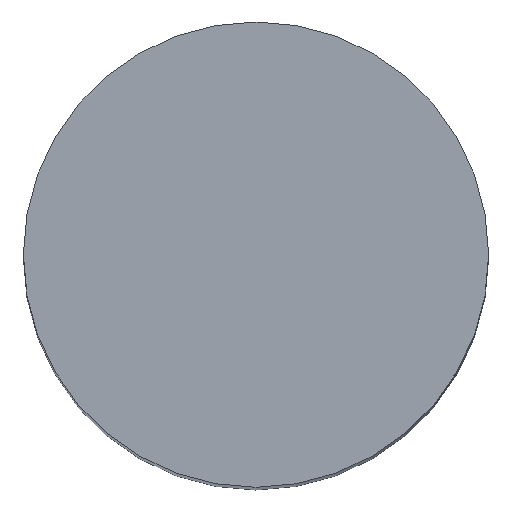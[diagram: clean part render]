
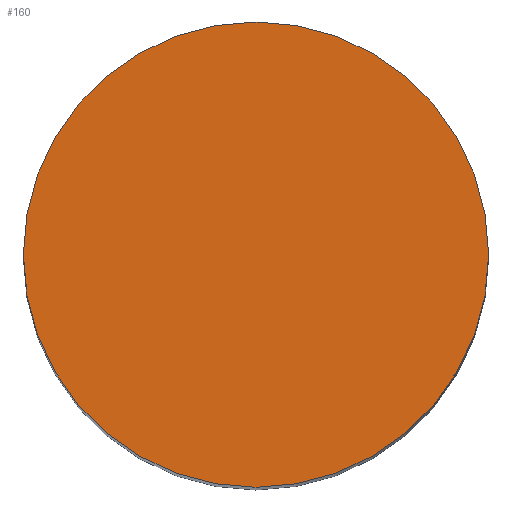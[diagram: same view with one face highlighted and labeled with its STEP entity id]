
A CAD part, top view. The second image highlights one B-rep face of the part: STEP entity #160.
In plain terms, the highlighted planar face has unit normal (0, 0, 1).
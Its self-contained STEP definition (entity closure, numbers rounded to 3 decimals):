
#1 = AXIS2_PLACEMENT_3D ( 'NONE', #56, #212, #178 ) ;
#8 = CARTESIAN_POINT ( 'NONE',  ( -3.25, 0., 40. ) ) ;
#33 = DIRECTION ( 'NONE',  ( 0., 0., -1. ) ) ;
#42 = CARTESIAN_POINT ( 'NONE',  ( 0., 0., 40. ) ) ;
#56 = CARTESIAN_POINT ( 'NONE',  ( 0., 0., 40. ) ) ;
#115 = EDGE_CURVE ( 'NONE', #413, #457, #470, .T. ) ;
#160 = ADVANCED_FACE ( 'NONE', ( #472 ), #274, .F. ) ;
#168 = AXIS2_PLACEMENT_3D ( 'NONE', #42, #203, #364 ) ;
#178 = DIRECTION ( 'NONE',  ( 0., -1., 0. ) ) ;
#201 = AXIS2_PLACEMENT_3D ( 'NONE', #229, #33, #431 ) ;
#203 = DIRECTION ( 'NONE',  ( 0., 0., -1. ) ) ;
#212 = DIRECTION ( 'NONE',  ( 0., 0., -1. ) ) ;
#229 = CARTESIAN_POINT ( 'NONE',  ( 0., 0., 40. ) ) ;
#274 = PLANE ( 'NONE',  #201 ) ;
#284 = CARTESIAN_POINT ( 'NONE',  ( 3.25, 0., 40. ) ) ;
#360 = EDGE_LOOP ( 'NONE', ( #383, #411 ) ) ;
#364 = DIRECTION ( 'NONE',  ( 0., -1., 0. ) ) ;
#383 = ORIENTED_EDGE ( 'NONE', *, *, #475, .F. ) ;
#389 = CIRCLE ( 'NONE', #168, 3.25 ) ;
#411 = ORIENTED_EDGE ( 'NONE', *, *, #115, .F. ) ;
#413 = VERTEX_POINT ( 'NONE', #8 ) ;
#431 = DIRECTION ( 'NONE',  ( -1., 0., 0. ) ) ;
#457 = VERTEX_POINT ( 'NONE', #284 ) ;
#470 = CIRCLE ( 'NONE', #1, 3.25 ) ;
#472 = FACE_OUTER_BOUND ( 'NONE', #360, .T. ) ;
#475 = EDGE_CURVE ( 'NONE', #457, #413, #389, .T. ) ;
